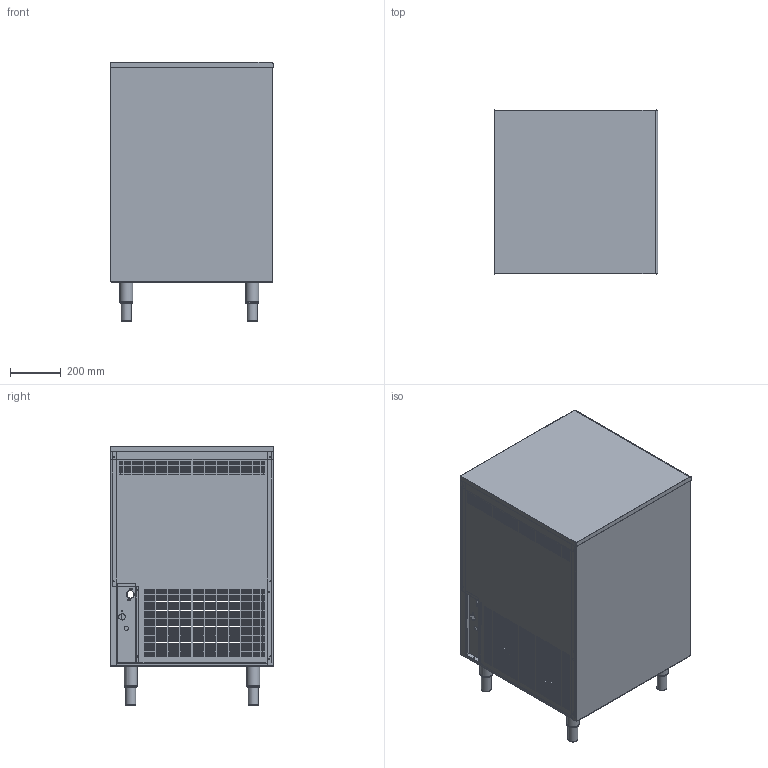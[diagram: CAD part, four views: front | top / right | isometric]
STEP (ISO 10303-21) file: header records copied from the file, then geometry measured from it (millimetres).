
FILE_DESCRIPTION(/* description */ ('Unknown'),/* implementation_level */ '2;1');
FILE_NAME(/* name */ 'eco-70',/* time_stamp */ '2018-04-20T10:46:22+02:00',/* author */ ('Unknown'),/* organization */ ('Unknown'),/* preprocessor_version */ 'ST-DEVELOPER v16.7',/* originating_system */ 'DEX',/* authorisation */ $);
FILE_SCHEMA (('CONFIG_CONTROL_DESIGN'));
Products named in the file (11): eco-70; carroceria eco-70_oa_0; 37-27+4143; 37-46+4446; 37-45+4441_oa_1; 37-45+4440_oa_2; 32-30; 37-47+4450+2089; 37-6+4137; 37-124+4138; 37-55+4458
Assembly tree (17 placements, depth 3):
  eco-70
    carroceria eco-70_oa_0
      37-27+4143
      37-46+4446
      37-45+4441_oa_1
      37-45+4440_oa_2
      32-30  x4
      37-47+4450+2089
      37-6+4137
      37-124+4138
    37-55+4458
    32-30  x4
Bounding box: 644.52 x 645 x 1021.8 mm (x, y, z)
Volume: 4779832.7 mm3; surface area: 6794861.4 mm2
Topology: 16 solids, 16 shells, 3182 faces, 9262 edges, 6144 vertices
Faces by surface type: plane 2815, cylinder 315, torus 24, cone 16, bspline 12
Full cylindrical faces by diameter (mm): 2.5 x8, 2.7 x17, 3.5 x6, 4.2 x6, 4.25 x31, 5 x18, 6 x24, 7 x13, 8 x5, 10 x8, 30 x1, 38 x8, 40 x8, 50 x8, 51 x8
Entity records: 103906 total; most frequent: CARTESIAN_POINT 18261, ORIENTED_EDGE 17764, DIRECTION 15603, EDGE_CURVE 8882, LINE 8289, VECTOR 8289, VERTEX_POINT 5957, EDGE_LOOP 4667
